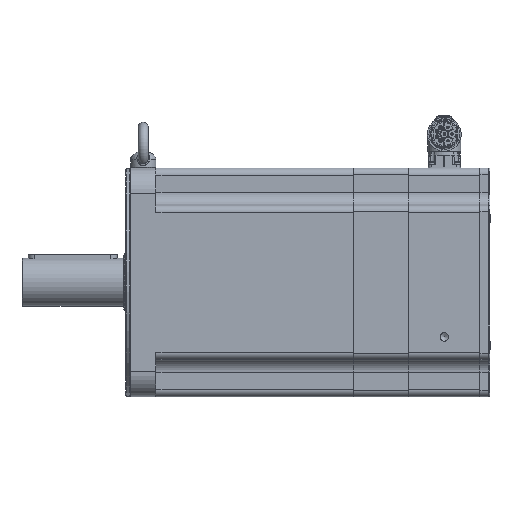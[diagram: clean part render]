
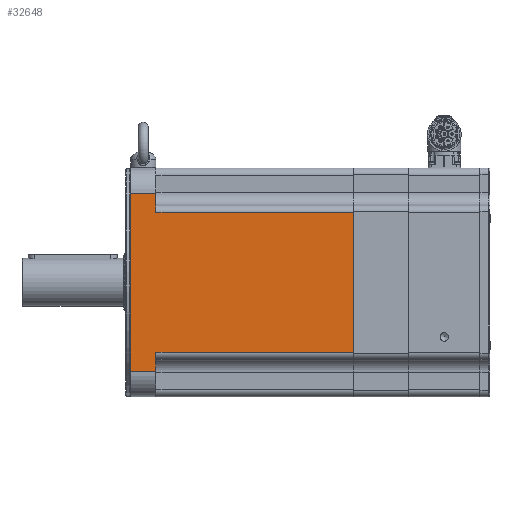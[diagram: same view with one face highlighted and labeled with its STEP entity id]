
A CAD part, left-side view. The second image highlights one B-rep face of the part: STEP entity #32648.
In plain terms, the highlighted planar face has unit normal (-1, 0, 0) as drawn and (1, 0, 0) by its records, which use the part's own axes.
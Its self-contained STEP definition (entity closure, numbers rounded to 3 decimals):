
#2425=PLANE('',#46567);
#12839=ORIENTED_EDGE('',*,*,#17615,.F.);
#12840=ORIENTED_EDGE('',*,*,#17687,.T.);
#12841=ORIENTED_EDGE('',*,*,#17653,.F.);
#12842=ORIENTED_EDGE('',*,*,#17688,.T.);
#12843=ORIENTED_EDGE('',*,*,#17689,.F.);
#12844=ORIENTED_EDGE('',*,*,#17690,.T.);
#12845=ORIENTED_EDGE('',*,*,#17675,.F.);
#12846=ORIENTED_EDGE('',*,*,#17691,.T.);
#17615=EDGE_CURVE('',#20913,#20914,#23139,.T.);
#17653=EDGE_CURVE('',#20951,#20952,#23153,.T.);
#17675=EDGE_CURVE('',#20973,#20974,#23160,.T.);
#17687=EDGE_CURVE('',#20913,#20952,#23168,.F.);
#17688=EDGE_CURVE('',#20951,#20981,#23169,.T.);
#17689=EDGE_CURVE('',#20982,#20981,#23170,.T.);
#17690=EDGE_CURVE('',#20982,#20974,#23171,.F.);
#17691=EDGE_CURVE('',#20973,#20914,#23172,.T.);
#20913=VERTEX_POINT('',#74797);
#20914=VERTEX_POINT('',#74799);
#20951=VERTEX_POINT('',#74884);
#20952=VERTEX_POINT('',#74886);
#20973=VERTEX_POINT('',#74937);
#20974=VERTEX_POINT('',#74938);
#20981=VERTEX_POINT('',#74962);
#20982=VERTEX_POINT('',#74964);
#23139=LINE('',#74798,#25311);
#23153=LINE('',#74885,#25325);
#23160=LINE('',#74936,#25332);
#23168=LINE('',#74960,#25340);
#23169=LINE('',#74961,#25341);
#23170=LINE('',#74963,#25342);
#23171=LINE('',#74965,#25343);
#23172=LINE('',#74966,#25344);
#25311=VECTOR('',#55232,1000.);
#25325=VECTOR('',#55316,1000.);
#25332=VECTOR('',#55369,1000.);
#25340=VECTOR('',#55393,1000.);
#25341=VECTOR('',#55394,1000.);
#25342=VECTOR('',#55395,1000.);
#25343=VECTOR('',#55396,1000.);
#25344=VECTOR('',#55397,1000.);
#27702=EDGE_LOOP('',(#12839,#12840,#12841,#12842,#12843,#12844,#12845,#12846));
#30167=FACE_BOUND('',#27702,.T.);
#32648=ADVANCED_FACE('',(#30167),#2425,.T.);
#46567=AXIS2_PLACEMENT_3D('',#74959,#55391,#55392);
#55232=DIRECTION('',(0.,0.,-1.));
#55316=DIRECTION('',(0.,0.,-1.));
#55369=DIRECTION('',(0.,0.,-1.));
#55391=DIRECTION('',(1.,0.,0.));
#55392=DIRECTION('',(0.,1.,0.));
#55393=DIRECTION('',(0.,1.,0.));
#55394=DIRECTION('',(0.,-1.,0.));
#55395=DIRECTION('',(0.,0.,1.));
#55396=DIRECTION('',(0.,-1.,0.));
#55397=DIRECTION('',(0.,1.,0.));
#74797=CARTESIAN_POINT('',(90.,176.8,55.2));
#74798=CARTESIAN_POINT('',(90.,176.8,-90.));
#74799=CARTESIAN_POINT('',(90.,176.8,-55.2));
#74884=CARTESIAN_POINT('',(90.,21.3,70.));
#74885=CARTESIAN_POINT('',(90.,21.3,-90.));
#74886=CARTESIAN_POINT('',(90.,21.3,55.2));
#74936=CARTESIAN_POINT('',(90.,21.3,-90.));
#74937=CARTESIAN_POINT('',(90.,21.3,-55.2));
#74938=CARTESIAN_POINT('',(90.,21.3,-70.));
#74959=CARTESIAN_POINT('',(90.,491.763,-90.));
#74960=CARTESIAN_POINT('',(90.,491.763,55.2));
#74961=CARTESIAN_POINT('',(90.,491.763,70.));
#74962=CARTESIAN_POINT('',(90.,1.3,70.));
#74963=CARTESIAN_POINT('',(90.,1.3,-90.));
#74964=CARTESIAN_POINT('',(90.,1.3,-70.));
#74965=CARTESIAN_POINT('',(90.,491.763,-70.));
#74966=CARTESIAN_POINT('',(90.,491.763,-55.2));
